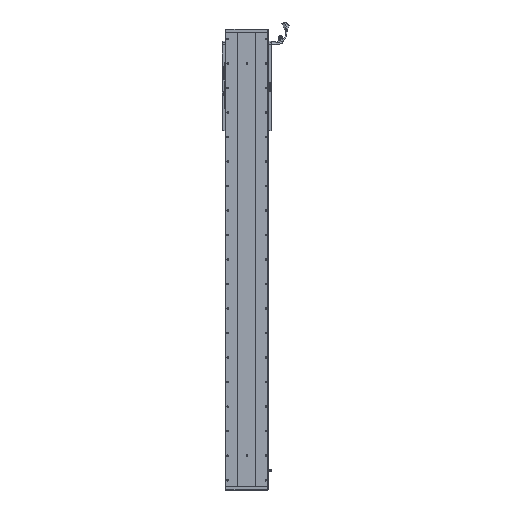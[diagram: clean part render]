
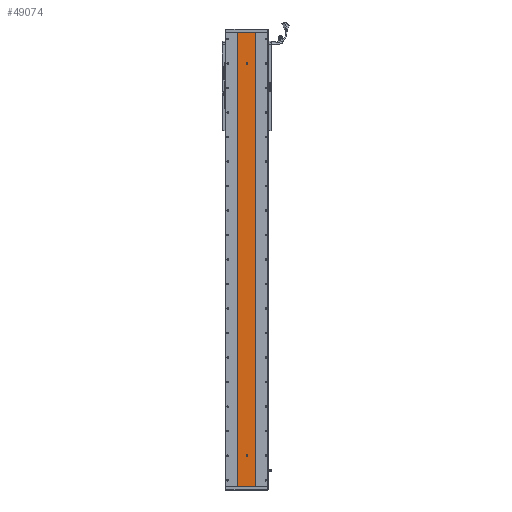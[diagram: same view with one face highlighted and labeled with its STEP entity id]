
A CAD part, front view. The second image highlights one B-rep face of the part: STEP entity #49074.
In plain terms, the highlighted planar face has unit normal (0, -1, 0).
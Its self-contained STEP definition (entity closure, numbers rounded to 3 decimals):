
#3008 = CARTESIAN_POINT ( 'NONE',  ( 3244.748, 1415.701, 1852. ) ) ;
#3389 = PLANE ( 'NONE',  #71980 ) ;
#4054 = VECTOR ( 'NONE', #63099, 1000. ) ;
#4141 = DIRECTION ( 'NONE',  ( 0., 0., 1. ) ) ;
#9483 = VERTEX_POINT ( 'NONE', #103168 ) ;
#10675 = VERTEX_POINT ( 'NONE', #63727 ) ;
#12777 = EDGE_CURVE ( 'NONE', #55965, #71767, #23834, .T. ) ;
#13521 = ORIENTED_EDGE ( 'NONE', *, *, #104190, .F. ) ;
#13700 = LINE ( 'NONE', #53453, #4054 ) ;
#16059 = CIRCLE ( 'NONE', #67896, 3. ) ;
#17378 = CARTESIAN_POINT ( 'NONE',  ( 3280.529, 1415.701, 1723. ) ) ;
#17805 = CARTESIAN_POINT ( 'NONE',  ( 3277.529, 1415.701, 127.5 ) ) ;
#19239 = CIRCLE ( 'NONE', #50817, 3. ) ;
#19329 = ORIENTED_EDGE ( 'NONE', *, *, #102165, .F. ) ;
#20944 = FACE_BOUND ( 'NONE', #61233, .T. ) ;
#21238 = AXIS2_PLACEMENT_3D ( 'NONE', #22356, #39701, #84881 ) ;
#21372 = DIRECTION ( 'NONE',  ( 0., 0., -1. ) ) ;
#22356 = CARTESIAN_POINT ( 'NONE',  ( 3280.529, 1415.701, 1726. ) ) ;
#23274 = VERTEX_POINT ( 'NONE', #85644 ) ;
#23664 = ORIENTED_EDGE ( 'NONE', *, *, #70238, .F. ) ;
#23834 = LINE ( 'NONE', #48603, #109413 ) ;
#24463 = CARTESIAN_POINT ( 'NONE',  ( 3280.529, 1415.701, 124.5 ) ) ;
#25832 = CARTESIAN_POINT ( 'NONE',  ( 3280.529, 1415.701, 127.5 ) ) ;
#25944 = CARTESIAN_POINT ( 'NONE',  ( 3277.529, 1415.701, 127.5 ) ) ;
#28384 = VERTEX_POINT ( 'NONE', #40576 ) ;
#28859 = LINE ( 'NONE', #99564, #30289 ) ;
#28886 = CARTESIAN_POINT ( 'NONE',  ( 3244.748, 1415.701, 1852. ) ) ;
#29250 = EDGE_LOOP ( 'NONE', ( #97558, #58395, #49841, #62283 ) ) ;
#29352 = ORIENTED_EDGE ( 'NONE', *, *, #81031, .F. ) ;
#29982 = CARTESIAN_POINT ( 'NONE',  ( 3316.311, 1415.701, 0. ) ) ;
#30289 = VECTOR ( 'NONE', #57761, 1000. ) ;
#31788 = CARTESIAN_POINT ( 'NONE',  ( 3280.529, 1415.701, 1726. ) ) ;
#33695 = DIRECTION ( 'NONE',  ( 0., -1., 0. ) ) ;
#36630 = VERTEX_POINT ( 'NONE', #111307 ) ;
#37263 = LINE ( 'NONE', #85365, #63514 ) ;
#38513 = DIRECTION ( 'NONE',  ( 0., 1., 0. ) ) ;
#38719 = CARTESIAN_POINT ( 'NONE',  ( 3280.529, 1415.701, 124.5 ) ) ;
#39701 = DIRECTION ( 'NONE',  ( 0., -1., 0. ) ) ;
#40391 = VERTEX_POINT ( 'NONE', #17805 ) ;
#40576 = CARTESIAN_POINT ( 'NONE',  ( 3280.529, 1415.701, 1729. ) ) ;
#41320 = DIRECTION ( 'NONE',  ( 0., 0., -1. ) ) ;
#41837 = CARTESIAN_POINT ( 'NONE',  ( 3283.529, 1415.701, 127.5 ) ) ;
#42957 = DIRECTION ( 'NONE',  ( 0., 0., -1. ) ) ;
#44982 = CARTESIAN_POINT ( 'NONE',  ( 3316.311, 1415.701, 1852. ) ) ;
#48603 = CARTESIAN_POINT ( 'NONE',  ( 3316.311, 1415.701, 1852. ) ) ;
#48844 = CIRCLE ( 'NONE', #79896, 3. ) ;
#48925 = VERTEX_POINT ( 'NONE', #17378 ) ;
#49074 = ADVANCED_FACE ( 'NONE', ( #20944, #110653, #92770 ), #3389, .F. ) ;
#49538 = VECTOR ( 'NONE', #82509, 1000. ) ;
#49841 = ORIENTED_EDGE ( 'NONE', *, *, #78112, .F. ) ;
#50817 = AXIS2_PLACEMENT_3D ( 'NONE', #24463, #33695, #42957 ) ;
#53453 = CARTESIAN_POINT ( 'NONE',  ( 3283.529, 1415.701, 127.5 ) ) ;
#54265 = CIRCLE ( 'NONE', #54285, 3. ) ;
#54285 = AXIS2_PLACEMENT_3D ( 'NONE', #31788, #93595, #103193 ) ;
#55697 = DIRECTION ( 'NONE',  ( 0., -1., 0. ) ) ;
#55965 = VERTEX_POINT ( 'NONE', #44982 ) ;
#57074 = DIRECTION ( 'NONE',  ( 0., 0., -1. ) ) ;
#57761 = DIRECTION ( 'NONE',  ( 1., 0., 0. ) ) ;
#58247 = ORIENTED_EDGE ( 'NONE', *, *, #108385, .F. ) ;
#58395 = ORIENTED_EDGE ( 'NONE', *, *, #12777, .F. ) ;
#59076 = VERTEX_POINT ( 'NONE', #87789 ) ;
#61233 = EDGE_LOOP ( 'NONE', ( #29352, #19329, #13521, #113609, #23664 ) ) ;
#61296 = EDGE_CURVE ( 'NONE', #59076, #89557, #13700, .T. ) ;
#61702 = VECTOR ( 'NONE', #87719, 1000. ) ;
#62283 = ORIENTED_EDGE ( 'NONE', *, *, #69370, .T. ) ;
#63099 = DIRECTION ( 'NONE',  ( 0., 0., 1. ) ) ;
#63514 = VECTOR ( 'NONE', #41320, 1000. ) ;
#63727 = CARTESIAN_POINT ( 'NONE',  ( 3244.748, 1415.701, 0. ) ) ;
#67896 = AXIS2_PLACEMENT_3D ( 'NONE', #38719, #55697, #21372 ) ;
#69370 = EDGE_CURVE ( 'NONE', #36630, #10675, #37263, .T. ) ;
#69725 = EDGE_CURVE ( 'NONE', #10675, #71767, #28859, .T. ) ;
#70238 = EDGE_CURVE ( 'NONE', #23274, #59076, #19239, .T. ) ;
#71767 = VERTEX_POINT ( 'NONE', #29982 ) ;
#71980 = AXIS2_PLACEMENT_3D ( 'NONE', #3008, #38513, #4141 ) ;
#73471 = EDGE_LOOP ( 'NONE', ( #58247, #110006 ) ) ;
#78112 = EDGE_CURVE ( 'NONE', #36630, #55965, #104855, .T. ) ;
#79769 = CIRCLE ( 'NONE', #21238, 3. ) ;
#79896 = AXIS2_PLACEMENT_3D ( 'NONE', #25832, #113040, #113424 ) ;
#80088 = EDGE_CURVE ( 'NONE', #28384, #48925, #79769, .T. ) ;
#81031 = EDGE_CURVE ( 'NONE', #9483, #23274, #16059, .T. ) ;
#82509 = DIRECTION ( 'NONE',  ( 1., 0., 0. ) ) ;
#84881 = DIRECTION ( 'NONE',  ( 0., 0., -1. ) ) ;
#85365 = CARTESIAN_POINT ( 'NONE',  ( 3244.748, 1415.701, 1852. ) ) ;
#85644 = CARTESIAN_POINT ( 'NONE',  ( 3280.529, 1415.701, 121.5 ) ) ;
#87719 = DIRECTION ( 'NONE',  ( 0., 0., -1. ) ) ;
#87789 = CARTESIAN_POINT ( 'NONE',  ( 3283.529, 1415.701, 124.5 ) ) ;
#89557 = VERTEX_POINT ( 'NONE', #41837 ) ;
#92770 = FACE_OUTER_BOUND ( 'NONE', #29250, .T. ) ;
#93595 = DIRECTION ( 'NONE',  ( 0., -1., 0. ) ) ;
#97558 = ORIENTED_EDGE ( 'NONE', *, *, #69725, .T. ) ;
#99564 = CARTESIAN_POINT ( 'NONE',  ( 3244.748, 1415.701, 0. ) ) ;
#102165 = EDGE_CURVE ( 'NONE', #40391, #9483, #107337, .T. ) ;
#103168 = CARTESIAN_POINT ( 'NONE',  ( 3277.529, 1415.701, 124.5 ) ) ;
#103193 = DIRECTION ( 'NONE',  ( 0., 0., -1. ) ) ;
#104190 = EDGE_CURVE ( 'NONE', #89557, #40391, #48844, .T. ) ;
#104855 = LINE ( 'NONE', #28886, #49538 ) ;
#107337 = LINE ( 'NONE', #25944, #61702 ) ;
#108385 = EDGE_CURVE ( 'NONE', #48925, #28384, #54265, .T. ) ;
#109413 = VECTOR ( 'NONE', #57074, 1000. ) ;
#110006 = ORIENTED_EDGE ( 'NONE', *, *, #80088, .F. ) ;
#110653 = FACE_BOUND ( 'NONE', #73471, .T. ) ;
#111307 = CARTESIAN_POINT ( 'NONE',  ( 3244.748, 1415.701, 1852. ) ) ;
#113040 = DIRECTION ( 'NONE',  ( 0., -1., 0. ) ) ;
#113424 = DIRECTION ( 'NONE',  ( 0., 0., -1. ) ) ;
#113609 = ORIENTED_EDGE ( 'NONE', *, *, #61296, .F. ) ;
